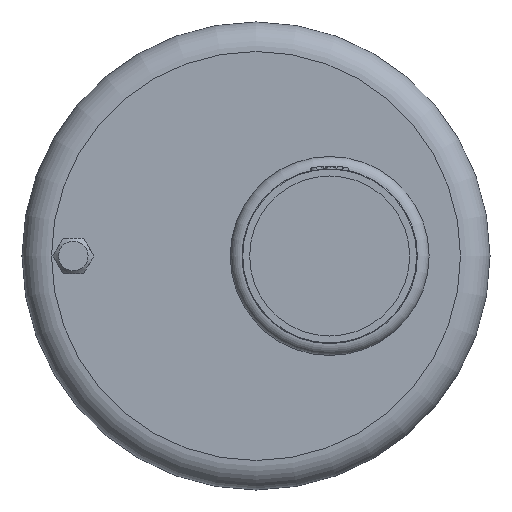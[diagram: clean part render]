
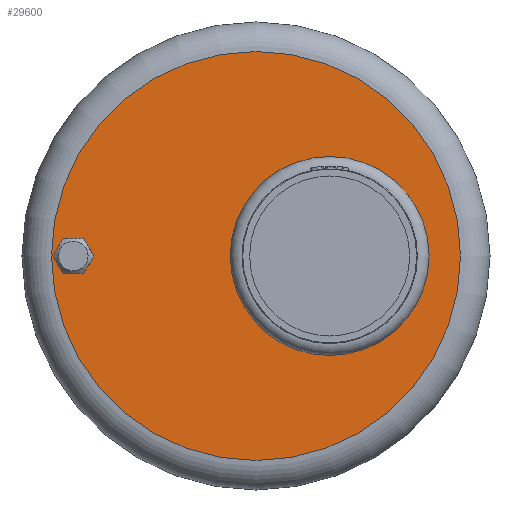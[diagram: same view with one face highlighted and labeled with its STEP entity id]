
A CAD part, front view. The second image highlights one B-rep face of the part: STEP entity #29600.
In plain terms, the highlighted planar face has unit normal (0, -1, 0).
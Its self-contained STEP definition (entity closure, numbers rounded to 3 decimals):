
#1411=PLANE('',#31703);
#2014=CIRCLE('',#31653,33.75);
#2025=CIRCLE('',#31682,6.);
#2033=CIRCLE('',#31702,69.4);
#7007=FACE_BOUND('',#10442,.T.);
#7008=FACE_BOUND('',#10443,.T.);
#8624=FACE_OUTER_BOUND('',#10441,.T.);
#10441=EDGE_LOOP('',(#27567));
#10442=EDGE_LOOP('',(#27568));
#10443=EDGE_LOOP('',(#27569));
#14540=VERTEX_POINT('',#62866);
#14564=VERTEX_POINT('',#62961);
#14572=VERTEX_POINT('',#62989);
#18892=EDGE_CURVE('',#14540,#14540,#2014,.T.);
#18922=EDGE_CURVE('',#14564,#14564,#2025,.T.);
#18930=EDGE_CURVE('',#14572,#14572,#2033,.T.);
#27567=ORIENTED_EDGE('',*,*,#18930,.T.);
#27568=ORIENTED_EDGE('',*,*,#18892,.T.);
#27569=ORIENTED_EDGE('',*,*,#18922,.T.);
#29600=ADVANCED_FACE('',(#8624,#7007,#7008),#1411,.T.);
#31653=AXIS2_PLACEMENT_3D('',#62867,#37850,#37851);
#31682=AXIS2_PLACEMENT_3D('',#62962,#37914,#37915);
#31702=AXIS2_PLACEMENT_3D('',#62990,#37954,#37955);
#31703=AXIS2_PLACEMENT_3D('',#62991,#37956,#37957);
#37850=DIRECTION('center_axis',(0.,1.,0.));
#37851=DIRECTION('ref_axis',(0.,0.,-1.));
#37914=DIRECTION('center_axis',(0.,1.,0.));
#37915=DIRECTION('ref_axis',(-1.,0.,0.));
#37954=DIRECTION('center_axis',(0.,-1.,0.));
#37955=DIRECTION('ref_axis',(-1.,0.,0.));
#37956=DIRECTION('center_axis',(0.,-1.,0.));
#37957=DIRECTION('ref_axis',(0.,0.,-1.));
#62866=CARTESIAN_POINT('',(58.75,-127.,0.));
#62867=CARTESIAN_POINT('Origin',(25.,-127.,0.));
#62961=CARTESIAN_POINT('',(-68.,-127.,0.));
#62962=CARTESIAN_POINT('Origin',(-62.,-127.,0.));
#62989=CARTESIAN_POINT('',(-69.4,-127.,0.));
#62990=CARTESIAN_POINT('Origin',(0.,-127.,0.));
#62991=CARTESIAN_POINT('Origin',(-34.7,-127.,0.));
